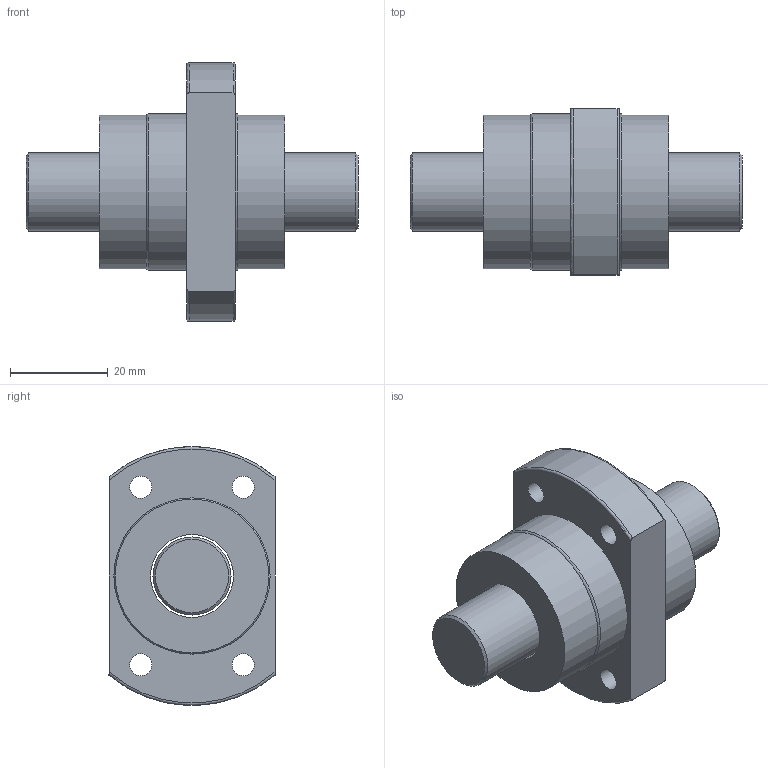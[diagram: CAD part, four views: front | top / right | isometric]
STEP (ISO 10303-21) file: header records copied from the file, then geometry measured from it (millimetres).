
FILE_DESCRIPTION(/* description */ (''),/* implementation_level */ '2;1');
FILE_NAME(/* name */ 'SFE1616',/* time_stamp */ '2007-10-26T11:56:15+08:00',/* author */ (''),/* organization */ (''),/* preprocessor_version */ 'ST-DEVELOPER v9',/* originating_system */ 'EDS PLM SOLUTIONS - UNIGRAPHICS NX 1.0',/* authorisation */ '');
FILE_SCHEMA (('CONFIG_CONTROL_DESIGN'));
Length unit declared in the file: millimetre
Products named in the file (1): FANNDA0400fz
Bounding box: 68 x 34 x 53 mm (x, y, z)
Volume: 43118.9 mm3; surface area: 15634.1 mm2
Topology: 4 solids, 4 shells, 33 faces, 70 edges, 47 vertices
Faces by surface type: cylinder 14, plane 12, torus 5, cone 2
Full cylindrical faces by diameter (mm): 4.5 x4, 16 x1, 17 x3, 31.5 x2, 32 x2
Entity records: 1020 total; most frequent: CARTESIAN_POINT 260, DIRECTION 146, ORIENTED_EDGE 102, AXIS2_PLACEMENT_3D 69, EDGE_LOOP 64, EDGE_CURVE 51, FACE_BOUND 44, VERTEX_POINT 43
